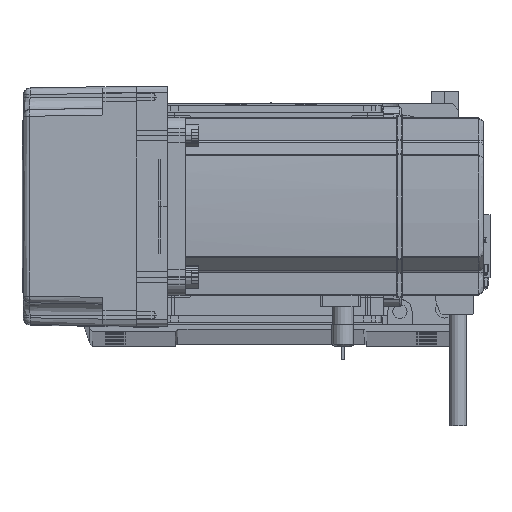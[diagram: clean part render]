
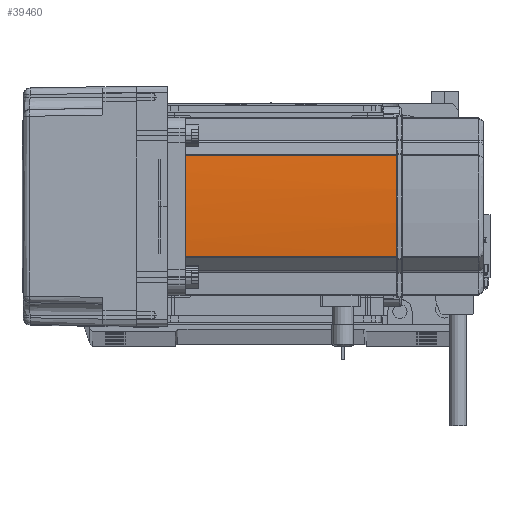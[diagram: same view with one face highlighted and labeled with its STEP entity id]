
A CAD part, top view. The second image highlights one B-rep face of the part: STEP entity #39460.
In plain terms, the highlighted cylindrical face has radius 270 mm (diameter 540 mm), a partial arc.
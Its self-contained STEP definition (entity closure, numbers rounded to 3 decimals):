
#140 = FACE_OUTER_BOUND ( 'NONE', #28402, .T. ) ;
#370 = VERTEX_POINT ( 'NONE', #8774 ) ;
#2199 = EDGE_CURVE ( 'NONE', #43697, #60629, #67882, .T. ) ;
#2678 = EDGE_CURVE ( 'NONE', #35343, #42534, #23735, .T. ) ;
#3166 = DIRECTION ( 'NONE',  ( -1., 0., 0. ) ) ;
#3608 = CARTESIAN_POINT ( 'NONE',  ( -230., 0., 39. ) ) ;
#6683 = ORIENTED_EDGE ( 'NONE', *, *, #18501, .T. ) ;
#7088 = EDGE_CURVE ( 'NONE', #370, #35343, #7406, .T. ) ;
#7406 = CIRCLE ( 'NONE', #35465, 270. ) ;
#7994 = DIRECTION ( 'NONE',  ( -1., 0., 0. ) ) ;
#8774 = CARTESIAN_POINT ( 'NONE',  ( 40., -0.127, 134. ) ) ;
#8919 = CARTESIAN_POINT ( 'NONE',  ( -230., 0., 134. ) ) ;
#10715 = CARTESIAN_POINT ( 'NONE',  ( 39.042, -22.724, 58. ) ) ;
#12687 = CARTESIAN_POINT ( 'NONE',  ( 39.042, -22.724, 39. ) ) ;
#14289 = DIRECTION ( 'NONE',  ( 0., 0., -1. ) ) ;
#14785 = DIRECTION ( 'NONE',  ( -1., 0., 0. ) ) ;
#16250 = VECTOR ( 'NONE', #32349, 1000. ) ;
#16687 = ORIENTED_EDGE ( 'NONE', *, *, #32970, .F. ) ;
#18501 = EDGE_CURVE ( 'NONE', #60629, #67808, #68652, .T. ) ;
#21858 = CARTESIAN_POINT ( 'NONE',  ( 40., 0.127, 134. ) ) ;
#22357 = ORIENTED_EDGE ( 'NONE', *, *, #2199, .T. ) ;
#22431 = ORIENTED_EDGE ( 'NONE', *, *, #58217, .F. ) ;
#22831 = AXIS2_PLACEMENT_3D ( 'NONE', #61645, #35126, #3166 ) ;
#23735 = LINE ( 'NONE', #10715, #16250 ) ;
#25116 = DIRECTION ( 'NONE',  ( -1., 0., 0. ) ) ;
#26080 = CYLINDRICAL_SURFACE ( 'NONE', #22831, 270. ) ;
#28402 = EDGE_LOOP ( 'NONE', ( #33901, #22431, #22357, #6683, #16687, #39331 ) ) ;
#29031 = CARTESIAN_POINT ( 'NONE',  ( 39.042, 22.724, 39. ) ) ;
#31888 = CARTESIAN_POINT ( 'NONE',  ( 39.042, 22.724, 134. ) ) ;
#32349 = DIRECTION ( 'NONE',  ( 0., 0., -1. ) ) ;
#32970 = EDGE_CURVE ( 'NONE', #370, #67808, #67097, .T. ) ;
#33901 = ORIENTED_EDGE ( 'NONE', *, *, #2678, .T. ) ;
#35126 = DIRECTION ( 'NONE',  ( 0., 0., -1. ) ) ;
#35343 = VERTEX_POINT ( 'NONE', #51372 ) ;
#35465 = AXIS2_PLACEMENT_3D ( 'NONE', #63386, #52258, #14785 ) ;
#39331 = ORIENTED_EDGE ( 'NONE', *, *, #7088, .T. ) ;
#39460 = ADVANCED_FACE ( 'NONE', ( #140 ), #26080, .T. ) ;
#40704 = DIRECTION ( 'NONE',  ( 0., 0., -1. ) ) ;
#41851 = CARTESIAN_POINT ( 'NONE',  ( 40., 0.042, 134. ) ) ;
#42534 = VERTEX_POINT ( 'NONE', #12687 ) ;
#43697 = VERTEX_POINT ( 'NONE', #29031 ) ;
#48578 = AXIS2_PLACEMENT_3D ( 'NONE', #8919, #14289, #7994 ) ;
#51372 = CARTESIAN_POINT ( 'NONE',  ( 39.042, -22.724, 134. ) ) ;
#52258 = DIRECTION ( 'NONE',  ( 0., 0., -1. ) ) ;
#56769 = AXIS2_PLACEMENT_3D ( 'NONE', #3608, #40704, #25116 ) ;
#57629 = CARTESIAN_POINT ( 'NONE',  ( 40., -0.127, 134. ) ) ;
#58217 = EDGE_CURVE ( 'NONE', #43697, #42534, #67798, .T. ) ;
#60452 = VECTOR ( 'NONE', #66843, 1000. ) ;
#60629 = VERTEX_POINT ( 'NONE', #31888 ) ;
#61645 = CARTESIAN_POINT ( 'NONE',  ( -230., 0., 58. ) ) ;
#62976 = CARTESIAN_POINT ( 'NONE',  ( 40., -0.042, 134. ) ) ;
#63386 = CARTESIAN_POINT ( 'NONE',  ( -230., 0., 134. ) ) ;
#66843 = DIRECTION ( 'NONE',  ( 0., 0., 1. ) ) ;
#67097 = B_SPLINE_CURVE_WITH_KNOTS ( 'NONE', 3,
 ( #57629, #62976, #41851, #68537 ),
 .UNSPECIFIED., .F., .F.,
 ( 4, 4 ),
 ( 0., 1. ),
 .UNSPECIFIED. ) ;
#67325 = CARTESIAN_POINT ( 'NONE',  ( 39.042, 22.724, 58. ) ) ;
#67798 = CIRCLE ( 'NONE', #56769, 270. ) ;
#67808 = VERTEX_POINT ( 'NONE', #21858 ) ;
#67882 = LINE ( 'NONE', #67325, #60452 ) ;
#68537 = CARTESIAN_POINT ( 'NONE',  ( 40., 0.127, 134. ) ) ;
#68652 = CIRCLE ( 'NONE', #48578, 270. ) ;
